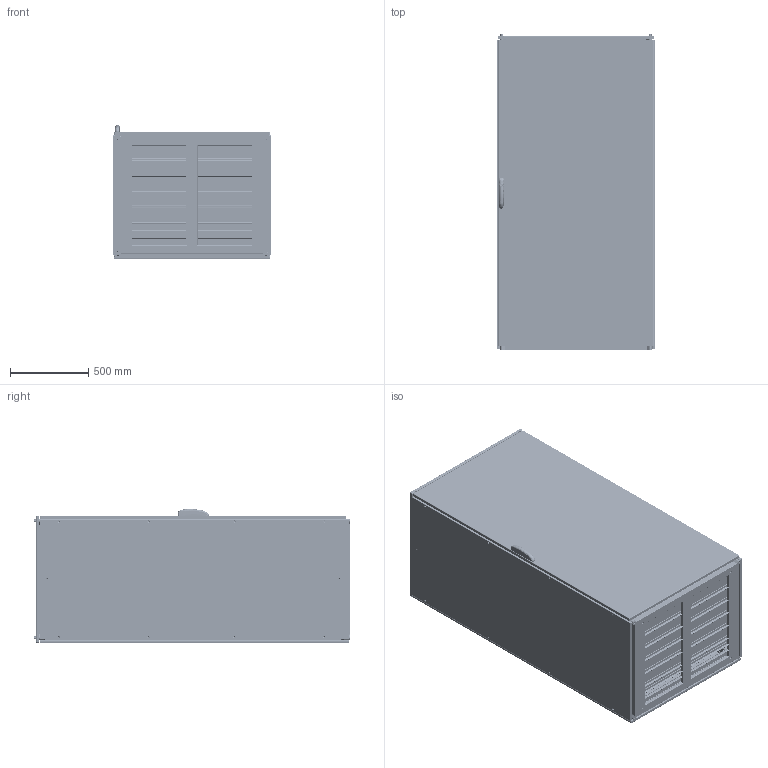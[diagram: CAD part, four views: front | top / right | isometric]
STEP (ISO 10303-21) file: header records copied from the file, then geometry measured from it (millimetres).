
FILE_DESCRIPTION (( 'STEP AP203' ), '1' );
FILE_NAME ('ENUX-102008PRX.STEP', '2025-06-20T10:01:09', ( '' ), ( '' ), 'SwSTEP 2.0', 'SolidWorks 2022', '' );
FILE_SCHEMA (( 'CONFIG_CONTROL_DESIGN' ));
Length unit declared in the file: millimetre
Products named in the file (13): AR_ENUX_Inox_Tegolino_1000x0100; AR_ENUX_Inox_Struttura_1000x2000x0800; AR_ENUX_Inox_montaggio_porta_singlola_2.0_1000x2000_ANT_DX; AR_ENUX_Inox_Fianco_0800x2000_SX; AR_ENUX_Inox_Tegolino_1000x0050; AR_ENUX_nuova_maniglia_mesan; AR_ENUX_Inox_Porta_singola_2.0_1000x2000_ANT; ENUX-102008PRX; AR_ENUX_Inox_Fianco_0800x2000_DX; AR_ENUX_Inox_Vite_tetto_inox; AR_ENUX_Inox_Retro_singolo_1000x2000; AR_ENUX_Inox_Tetto_1000x0800; AR_ENUX_Inox_Rosetta_13x24x2.5_inox
Assembly tree (30 placements, depth 3):
  ENUX-102008PRX
    AR_ENUX_Inox_Struttura_1000x2000x0800
    AR_ENUX_Inox_Retro_singolo_1000x2000
    AR_ENUX_Inox_montaggio_porta_singlola_2.0_1000x2000_ANT_DX
      AR_ENUX_Inox_Porta_singola_2.0_1000x2000_ANT
      AR_ENUX_nuova_maniglia_mesan
    AR_ENUX_Inox_Fianco_0800x2000_SX
    AR_ENUX_Inox_Fianco_0800x2000_DX
    AR_ENUX_Inox_Tetto_1000x0800
    AR_ENUX_Inox_Vite_tetto_inox  x4
    AR_ENUX_Inox_Rosetta_13x24x2.5_inox  x4
    AR_ENUX_Inox_Tegolino_1000x0050  x4
    AR_ENUX_Inox_Tegolino_1000x0100  x10
Bounding box: 1012 x 2023 x 857 mm (x, y, z)
Volume: 16965703.4 mm3; surface area: 25658817 mm2
Topology: 29 solids, 30 shells, 10726 faces, 29964 edges, 19210 vertices
Faces by surface type: plane 6071, cylinder 3687, bspline 367, torus 285, cone 248, sphere 68
Entity records: 366960 total; most frequent: CARTESIAN_POINT 97656, ORIENTED_EDGE 55738, DIRECTION 53253, EDGE_CURVE 27869, VECTOR 19345, LINE 19345, VERTEX_POINT 18142, AXIS2_PLACEMENT_3D 16954
